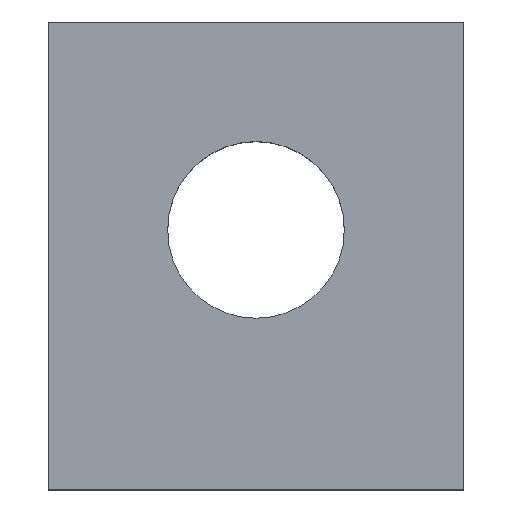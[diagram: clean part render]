
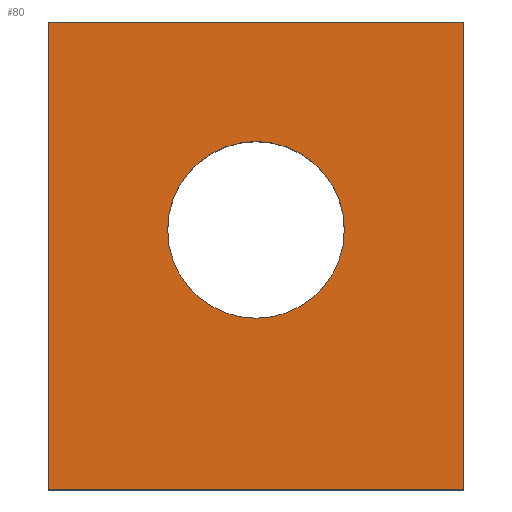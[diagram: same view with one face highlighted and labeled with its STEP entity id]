
A CAD part, top view. The second image highlights one B-rep face of the part: STEP entity #80.
In plain terms, the highlighted planar face has unit normal (0, 0, 1).
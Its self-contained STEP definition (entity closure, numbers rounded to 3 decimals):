
#5 = ORIENTED_EDGE ( 'NONE', *, *, #301, .F. ) ;
#10 = CARTESIAN_POINT ( 'NONE',  ( 1.7, 0., 3. ) ) ;
#16 = VERTEX_POINT ( 'NONE', #175 ) ;
#24 = AXIS2_PLACEMENT_3D ( 'NONE', #276, #252, #37 ) ;
#25 = DIRECTION ( 'NONE',  ( 0., -1., 0. ) ) ;
#26 = ORIENTED_EDGE ( 'NONE', *, *, #253, .T. ) ;
#35 = CARTESIAN_POINT ( 'NONE',  ( 4., 4., 3. ) ) ;
#37 = DIRECTION ( 'NONE',  ( 1., 0., 0. ) ) ;
#39 = ORIENTED_EDGE ( 'NONE', *, *, #93, .T. ) ;
#48 = LINE ( 'NONE', #72, #204 ) ;
#53 = CARTESIAN_POINT ( 'NONE',  ( -4., 4., 3. ) ) ;
#54 = LINE ( 'NONE', #35, #117 ) ;
#60 = VERTEX_POINT ( 'NONE', #228 ) ;
#64 = VERTEX_POINT ( 'NONE', #172 ) ;
#72 = CARTESIAN_POINT ( 'NONE',  ( 4., -5., 3. ) ) ;
#76 = ORIENTED_EDGE ( 'NONE', *, *, #307, .F. ) ;
#80 = ADVANCED_FACE ( 'NONE', ( #105, #199 ), #310, .T. ) ;
#81 = EDGE_LOOP ( 'NONE', ( #39, #26, #91, #206 ) ) ;
#83 = DIRECTION ( 'NONE',  ( -1., 0., 0. ) ) ;
#88 = CARTESIAN_POINT ( 'NONE',  ( 4., 4., 3. ) ) ;
#91 = ORIENTED_EDGE ( 'NONE', *, *, #92, .T. ) ;
#92 = EDGE_CURVE ( 'NONE', #64, #304, #48, .T. ) ;
#93 = EDGE_CURVE ( 'NONE', #60, #300, #242, .T. ) ;
#99 = CIRCLE ( 'NONE', #270, 1.7 ) ;
#105 = FACE_OUTER_BOUND ( 'NONE', #81, .T. ) ;
#110 = DIRECTION ( 'NONE',  ( 1., 0., 0. ) ) ;
#112 = DIRECTION ( 'NONE',  ( 1., 0., 0. ) ) ;
#117 = VECTOR ( 'NONE', #83, 1000. ) ;
#124 = CIRCLE ( 'NONE', #24, 1.7 ) ;
#125 = DIRECTION ( 'NONE',  ( 1., 0., 0. ) ) ;
#128 = EDGE_CURVE ( 'NONE', #304, #60, #54, .T. ) ;
#135 = CARTESIAN_POINT ( 'NONE',  ( -4., -5., 3. ) ) ;
#136 = CARTESIAN_POINT ( 'NONE',  ( 0., 0., 3. ) ) ;
#150 = DIRECTION ( 'NONE',  ( 0., 1., 0. ) ) ;
#159 = DIRECTION ( 'NONE',  ( 0., 0., 1. ) ) ;
#172 = CARTESIAN_POINT ( 'NONE',  ( 4., -5., 3. ) ) ;
#174 = CARTESIAN_POINT ( 'NONE',  ( 0., 0., 3. ) ) ;
#175 = CARTESIAN_POINT ( 'NONE',  ( -1.7, 0., 3. ) ) ;
#199 = FACE_BOUND ( 'NONE', #209, .T. ) ;
#203 = CARTESIAN_POINT ( 'NONE',  ( -4., -5., 3. ) ) ;
#204 = VECTOR ( 'NONE', #150, 1000. ) ;
#206 = ORIENTED_EDGE ( 'NONE', *, *, #128, .T. ) ;
#209 = EDGE_LOOP ( 'NONE', ( #76, #5 ) ) ;
#210 = AXIS2_PLACEMENT_3D ( 'NONE', #174, #268, #125 ) ;
#218 = VERTEX_POINT ( 'NONE', #10 ) ;
#228 = CARTESIAN_POINT ( 'NONE',  ( -4., 4., 3. ) ) ;
#235 = VECTOR ( 'NONE', #112, 1000. ) ;
#242 = LINE ( 'NONE', #53, #250 ) ;
#250 = VECTOR ( 'NONE', #25, 1000. ) ;
#252 = DIRECTION ( 'NONE',  ( 0., 0., 1. ) ) ;
#253 = EDGE_CURVE ( 'NONE', #300, #64, #292, .T. ) ;
#268 = DIRECTION ( 'NONE',  ( 0., 0., 1. ) ) ;
#270 = AXIS2_PLACEMENT_3D ( 'NONE', #136, #159, #110 ) ;
#276 = CARTESIAN_POINT ( 'NONE',  ( 0., 0., 3. ) ) ;
#292 = LINE ( 'NONE', #203, #235 ) ;
#300 = VERTEX_POINT ( 'NONE', #135 ) ;
#301 = EDGE_CURVE ( 'NONE', #218, #16, #99, .T. ) ;
#304 = VERTEX_POINT ( 'NONE', #88 ) ;
#307 = EDGE_CURVE ( 'NONE', #16, #218, #124, .T. ) ;
#310 = PLANE ( 'NONE',  #210 ) ;
